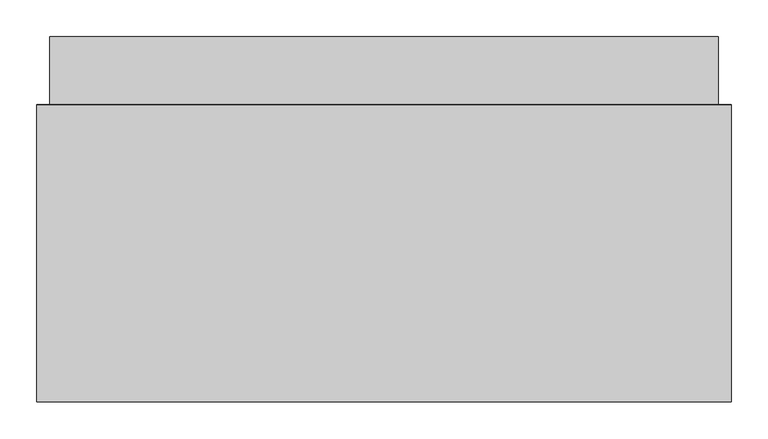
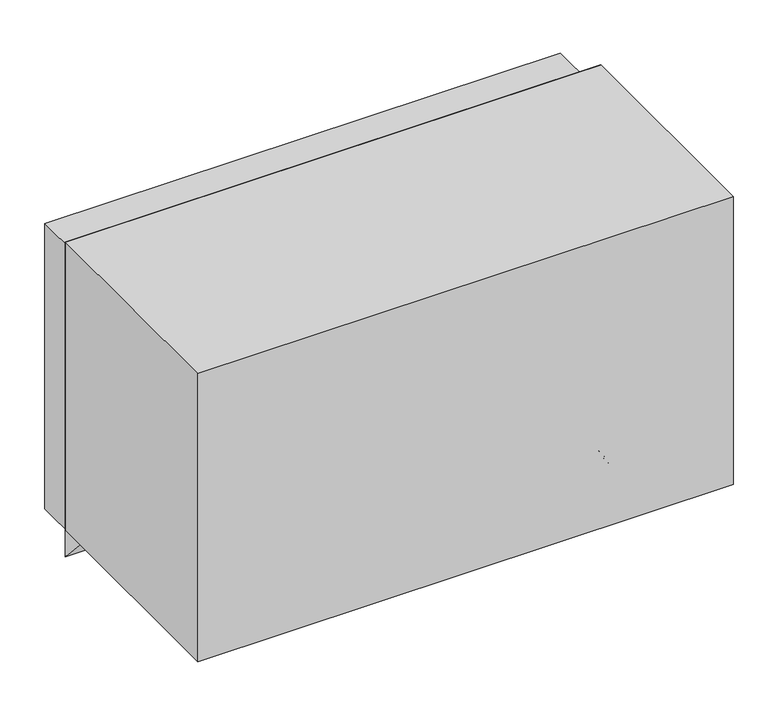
"""IFC4 building model written with IfcOpenShell, lengths in millimetres: proxy geometry, Baby Change Station_Metlam_Horizontal_Recessed : 940w x 495d x 585h (ML_8200REC)."""

from ifc_helpers import new_model, si_unit, point, frame, origin, place, context, project, spatial, polyline, circle_curve, ellipse_curve, trimmed, outline, extrude, source, transform, mapped, element, save
from ifc_brep_helpers import plane_surface, cylinder_surface, revolved_surface, advanced_brep


def specialty_equipment_21699a56(model_context):
    return source(origin(), model_context, "Body", "SolidModel", [
        advanced_brep(
        [(-389.7572247, -388.0, 800.0), (389.7572247, -388.0, 800.0), (364.666533, -388.0, 835.8332213), (362.7624956, -388.0, 836.8244004), (316.1256144, -388.0, 836.8244004), (313.801214, -388.0, 834.5), (313.801214, -388.0, 825.5), (305.1256144, -388.0, 816.8244004), (265.8909619, -388.0, 816.8244004), (258.0281984, -388.0, 821.8335332), (251.6636581, -388.0, 835.4823341), (249.5570359, -388.0, 836.8244004), (33.0, -388.0, 836.8244004), (30.6755996, -388.0, 834.5), (30.6755996, -388.0, 828.0), (24.5, -388.0, 821.8244004), (-24.5, -388.0, 821.8244004), (-30.6755996, -388.0, 828.0), (-30.6755996, -388.0, 834.5), (-33.0, -388.0, 836.8244004), (-249.5570359, -388.0, 836.8244004), (-251.6636581, -388.0, 835.4823341), (-258.0281984, -388.0, 821.8335332), (-265.8909619, -388.0, 816.8244004), (-305.1256144, -388.0, 816.8244004), (-313.801214, -388.0, 825.5), (-313.801214, -388.0, 834.5), (-316.1256144, -388.0, 836.8244004), (-362.7624956, -388.0, 836.8244004), (-364.666533, -388.0, 835.8332213), (389.7572247, -368.0, 800.0), (-389.7572247, -368.0, 800.0), (-364.666533, -368.0, 835.8332213), (-362.7624956, -368.0, 836.8244004), (-316.1256144, -368.0, 836.8244004), (-313.801214, -368.0, 834.5), (-313.801214, -368.0, 825.5), (-305.1256144, -368.0, 816.8244004), (-265.8909619, -368.0, 816.8244004), (-258.0281984, -368.0, 821.8335332), (-251.6636581, -368.0, 835.4823341), (-249.5570359, -368.0, 836.8244004), (-33.0, -368.0, 836.8244004), (-30.6755996, -368.0, 834.5), (-30.6755996, -368.0, 828.0), (-24.5, -368.0, 821.8244004), (24.5, -368.0, 821.8244004), (30.6755996, -368.0, 828.0), (30.6755996, -368.0, 834.5), (33.0, -368.0, 836.8244004), (249.5570359, -368.0, 836.8244004), (251.6636581, -368.0, 835.4823341), (258.0281984, -368.0, 821.8335332), (265.8909619, -368.0, 816.8244004), (305.1256144, -368.0, 816.8244004), (313.801214, -368.0, 825.5), (313.801214, -368.0, 834.5), (316.1256144, -368.0, 836.8244004), (362.7624956, -368.0, 836.8244004), (364.666533, -368.0, 835.8332213), (393.6339159, -384.8244004, 800.0), (393.6339159, -371.1755996, 800.0), (367.2678319, -371.1755996, 837.6546704), (367.2678319, -384.8244004, 837.6546704), (362.7624956, -371.1755996, 840.0), (362.7624956, -384.8244031, 840.0), (316.1256144, -371.1755996, 840.0), (316.1256144, -384.8244004, 840.0), (310.6256144, -371.1755996, 834.5), (310.6256144, -384.8244035, 834.5), (310.6256144, -371.1755996, 825.5), (310.6256144, -384.8244004, 825.5), (305.1256144, -371.1755996, 820.0), (305.1256144, -384.8244018, 820.0), (265.8909619, -371.1755996, 820.0), (265.8909619, -384.8244004, 820.0), (260.9062691, -371.1755996, 823.1755996), (260.9062691, -384.8244, 823.1755996), (254.5417287, -371.1755996, 836.8244004), (254.5417287, -384.8244004, 836.8244004), (249.5570359, -371.1755996, 840.0), (249.5570359, -384.8244023, 840.0), (33.0, -371.1755996, 840.0), (33.0, -384.8244004, 840.0), (27.5, -371.1755996, 834.5), (27.5, -384.8244033, 834.5), (27.5, -371.1755996, 828.0), (27.5, -384.8244004, 828.0), (24.5, -384.8244004, 825.0), (24.5, -371.1755996, 825.0), (-24.5, -371.1755996, 825.0), (-24.5, -384.8244004, 825.0), (-27.5, -384.8244004, 828.0), (-27.5, -371.1755996, 828.0), (-27.5, -371.1755996, 834.5), (-27.5, -384.8244004, 834.5), (-33.0, -371.1755996, 840.0), (-33.0, -384.8244025, 840.0), (-249.5570359, -371.1755996, 840.0), (-249.5570359, -384.8244004, 840.0), (-254.5417287, -371.1755996, 836.8244004), (-254.5417287, -384.8244031, 836.8244004), (-260.9062691, -371.1755996, 823.1755996), (-260.9062691, -384.8244004, 823.1755996), (-265.8909619, -371.1755996, 820.0), (-265.8909619, -384.8244016, 820.0), (-305.1256144, -371.1755996, 820.0), (-305.1256144, -384.8244004, 820.0), (-310.6256144, -371.1755996, 825.5), (-310.6256144, -384.8243996, 825.5), (-310.6256144, -371.1755996, 834.5), (-310.6256144, -384.8244004, 834.5), (-316.1256144, -371.1755996, 840.0), (-316.1256144, -384.8244026, 840.0), (-362.7624956, -371.1755996, 840.0), (-362.7624956, -384.8244004, 840.0), (-367.2678319, -371.1755996, 837.6546704), (-367.2678319, -384.8244032, 837.6546704), (-393.6339159, -371.1755996, 800.0), (-393.6339159, -384.8244004, 800.0)],
        [
            (0, 1),
            (1, 2),
            (2, 3, circle_curve(frame((362.7624956, -388.0, 834.5), z_axis=(0.0, -1.0, 0.0), x_axis=(0.8191520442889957, 0.0, 0.5735764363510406)), 2.3244004)),
            (3, 4),
            (4, 5, circle_curve(frame((316.1256144, -388.0, 834.5), z_axis=(0.0, -1.0, 0.0), x_axis=(0.0, 0.0, 1.0)), 2.3244004)),
            (5, 6),
            (6, 7, circle_curve(frame((305.1256144, -388.0, 825.5), z_axis=(0.0, 1.0, 0.0), x_axis=(1.0, 0.0, 0.0)), 8.6755996)),
            (7, 8),
            (8, 9, circle_curve(frame((265.8909619, -388.0, 825.5), z_axis=(0.0, 1.0, 0.0), x_axis=(0.0, 0.0, -1.0)), 8.6755996)),
            (9, 10),
            (10, 11, circle_curve(frame((249.5570359, -388.0, 834.5), z_axis=(0.0, -1.0, 0.0), x_axis=(0.9063077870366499, 0.0, 0.4226182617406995)), 2.3244004)),
            (11, 12),
            (12, 13, circle_curve(frame((33.0, -388.0, 834.5), z_axis=(0.0, -1.0, 0.0), x_axis=(0.0, 0.0, 1.0)), 2.3244004)),
            (13, 14),
            (14, 15, circle_curve(frame((24.5, -388.0, 828.0), z_axis=(0.0, 1.0, 0.0), x_axis=(1.0, 0.0, 0.0)), 6.1755996)),
            (15, 16),
            (16, 17, circle_curve(frame((-24.5, -388.0, 828.0), z_axis=(0.0, 1.0, 0.0), x_axis=(0.0, 0.0, -1.0)), 6.1755996)),
            (17, 18),
            (18, 19, circle_curve(frame((-33.0, -388.0, 834.5), z_axis=(0.0, -1.0, 0.0), x_axis=(1.0, 0.0, 0.0)), 2.3244004)),
            (19, 20),
            (20, 21, circle_curve(frame((-249.5570359, -388.0, 834.5), z_axis=(0.0, -1.0, 0.0), x_axis=(0.0, 0.0, 1.0)), 2.3244004)),
            (21, 22),
            (22, 23, circle_curve(frame((-265.8909619, -388.0, 825.5), z_axis=(0.0, 1.0, 0.0), x_axis=(0.9063077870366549, 0.0, -0.4226182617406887)), 8.6755996)),
            (23, 24),
            (24, 25, circle_curve(frame((-305.1256144, -388.0, 825.5), z_axis=(0.0, 1.0, 0.0), x_axis=(0.0, 0.0, -1.0)), 8.6755996)),
            (25, 26),
            (26, 27, circle_curve(frame((-316.1256144, -388.0, 834.5), z_axis=(0.0, -1.0, 0.0), x_axis=(1.0, 0.0, 0.0)), 2.3244004)),
            (27, 28),
            (28, 29, circle_curve(frame((-362.7624956, -388.0, 834.5), z_axis=(0.0, -1.0, 0.0), x_axis=(0.0, 0.0, 1.0)), 2.3244004)),
            (29, 0),
            (30, 31),
            (31, 32),
            (32, 33, circle_curve(frame((-362.7624956, -368.0, 834.5), z_axis=(0.0, 1.0, 0.0), x_axis=(0.0, 0.0, 1.0)), 2.3244004)),
            (33, 34),
            (34, 35, circle_curve(frame((-316.1256144, -368.0, 834.5), z_axis=(0.0, 1.0, 0.0), x_axis=(1.0, 0.0, 0.0)), 2.3244004)),
            (35, 36),
            (36, 37, circle_curve(frame((-305.1256144, -368.0, 825.5), z_axis=(0.0, -1.0, 0.0), x_axis=(0.0, 0.0, -1.0)), 8.6755996)),
            (37, 38),
            (38, 39, circle_curve(frame((-265.8909619, -368.0, 825.5), z_axis=(0.0, -1.0, 0.0), x_axis=(0.9063077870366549, 0.0, -0.4226182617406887)), 8.6755996)),
            (39, 40),
            (40, 41, circle_curve(frame((-249.5570359, -368.0, 834.5), z_axis=(0.0, 1.0, 0.0), x_axis=(0.0, 0.0, 1.0)), 2.3244004)),
            (41, 42),
            (42, 43, circle_curve(frame((-33.0, -368.0, 834.5), z_axis=(0.0, 1.0, 0.0), x_axis=(1.0, 0.0, 0.0)), 2.3244004)),
            (43, 44),
            (44, 45, circle_curve(frame((-24.5, -368.0, 828.0), z_axis=(0.0, -1.0, 0.0), x_axis=(0.0, 0.0, -1.0)), 6.1755996)),
            (45, 46),
            (46, 47, circle_curve(frame((24.5, -368.0, 828.0), z_axis=(0.0, -1.0, 0.0), x_axis=(1.0, 0.0, 0.0)), 6.1755996)),
            (47, 48),
            (48, 49, circle_curve(frame((33.0, -368.0, 834.5), z_axis=(0.0, 1.0, 0.0), x_axis=(0.0, 0.0, 1.0)), 2.3244004)),
            (49, 50),
            (50, 51, circle_curve(frame((249.5570359, -368.0, 834.5), z_axis=(0.0, 1.0, 0.0), x_axis=(0.9063077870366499, 0.0, 0.4226182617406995)), 2.3244004)),
            (51, 52),
            (52, 53, circle_curve(frame((265.8909619, -368.0, 825.5), z_axis=(0.0, -1.0, 0.0), x_axis=(0.0, 0.0, -1.0)), 8.6755996)),
            (53, 54),
            (54, 55, circle_curve(frame((305.1256144, -368.0, 825.5), z_axis=(0.0, -1.0, 0.0), x_axis=(1.0, 0.0, 0.0)), 8.6755996)),
            (55, 56),
            (56, 57, circle_curve(frame((316.1256144, -368.0, 834.5), z_axis=(0.0, 1.0, 0.0), x_axis=(0.0, 0.0, 1.0)), 2.3244004)),
            (57, 58),
            (58, 59, circle_curve(frame((362.7624956, -368.0, 834.5), z_axis=(0.0, 1.0, 0.0), x_axis=(0.8191520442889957, 0.0, 0.5735764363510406)), 2.3244004)),
            (59, 30),
            (60, 61),
            (61, 62),
            (62, 63),
            (63, 60),
            (62, 64, circle_curve(frame((362.7624956, -371.1755996, 834.5), z_axis=(0.0, -1.0, 0.0), x_axis=(1.0, 0.0, 0.0)), 5.5)),
            (64, 65),
            (65, 63, circle_curve(frame((362.7624956, -384.8244004, 834.5), z_axis=(0.0, 1.0, 0.0), x_axis=(1.0, 0.0, 0.0)), 5.5)),
            (64, 66),
            (66, 67),
            (67, 65),
            (66, 68, circle_curve(frame((316.1256144, -371.1755996, 834.5), z_axis=(0.0, -1.0, 0.0), x_axis=(1.0, 0.0, 0.0)), 5.5)),
            (68, 69),
            (69, 67, circle_curve(frame((316.1256144, -384.8244004, 834.5), z_axis=(0.0, 1.0, 0.0), x_axis=(1.0, 0.0, 0.0)), 5.5)),
            (68, 70),
            (70, 71),
            (71, 69),
            (70, 72, circle_curve(frame((305.1256144, -371.1755996, 825.5), z_axis=(0.0, 1.0, 0.0), x_axis=(1.0, 0.0, 0.0)), 5.5)),
            (72, 73),
            (73, 71, circle_curve(frame((305.1256144, -384.8244004, 825.5), z_axis=(0.0, -1.0, 0.0), x_axis=(1.0, 0.0, 0.0)), 5.5)),
            (72, 74),
            (74, 75),
            (75, 73),
            (74, 76, circle_curve(frame((265.8909619, -371.1755996, 825.5), z_axis=(0.0, 1.0, 0.0), x_axis=(1.0, 0.0, 0.0)), 5.5)),
            (76, 77),
            (77, 75, circle_curve(frame((265.8909619, -384.8244004, 825.5), z_axis=(0.0, -1.0, 0.0), x_axis=(1.0, 0.0, 0.0)), 5.5)),
            (76, 78),
            (78, 79),
            (79, 77),
            (78, 80, circle_curve(frame((249.5570359, -371.1755996, 834.5), z_axis=(0.0, -1.0, 0.0), x_axis=(1.0, 0.0, 0.0)), 5.5)),
            (80, 81),
            (81, 79, circle_curve(frame((249.5570359, -384.8244004, 834.5), z_axis=(0.0, 1.0, 0.0), x_axis=(1.0, 0.0, 0.0)), 5.5)),
            (80, 82),
            (82, 83),
            (83, 81),
            (82, 84, circle_curve(frame((33.0, -371.1755996, 834.5), z_axis=(0.0, -1.0, 0.0), x_axis=(1.0, 0.0, 0.0)), 5.5)),
            (84, 85),
            (85, 83, circle_curve(frame((33.0, -384.8244004, 834.5), z_axis=(0.0, 1.0, 0.0), x_axis=(1.0, 0.0, 0.0)), 5.5)),
            (84, 86),
            (86, 87),
            (87, 85),
            (88, 89),
            (89, 90),
            (90, 91),
            (91, 88),
            (92, 93),
            (93, 94),
            (94, 95),
            (95, 92),
            (94, 96, circle_curve(frame((-33.0, -371.1755996, 834.5), z_axis=(0.0, -1.0, 0.0), x_axis=(1.0, 0.0, 0.0)), 5.5)),
            (96, 97),
            (97, 95, circle_curve(frame((-33.0, -384.8244004, 834.5), z_axis=(0.0, 1.0, 0.0), x_axis=(1.0, 0.0, 0.0)), 5.5)),
            (96, 98),
            (98, 99),
            (99, 97),
            (98, 100, circle_curve(frame((-249.5570359, -371.1755996, 834.5), z_axis=(0.0, -1.0, 0.0), x_axis=(1.0, 0.0, 0.0)), 5.5)),
            (100, 101),
            (101, 99, circle_curve(frame((-249.5570359, -384.8244004, 834.5), z_axis=(0.0, 1.0, 0.0), x_axis=(1.0, 0.0, 0.0)), 5.5)),
            (100, 102),
            (102, 103),
            (103, 101),
            (102, 104, circle_curve(frame((-265.8909619, -371.1755996, 825.5), z_axis=(0.0, 1.0, 0.0), x_axis=(1.0, 0.0, 0.0)), 5.5)),
            (104, 105),
            (105, 103, circle_curve(frame((-265.8909619, -384.8244004, 825.5), z_axis=(0.0, -1.0, 0.0), x_axis=(1.0, 0.0, 0.0)), 5.5)),
            (104, 106),
            (106, 107),
            (107, 105),
            (106, 108, circle_curve(frame((-305.1256144, -371.1755996, 825.5), z_axis=(0.0, 1.0, 0.0), x_axis=(1.0, 0.0, 0.0)), 5.5)),
            (108, 109),
            (109, 107, circle_curve(frame((-305.1256144, -384.8244004, 825.5), z_axis=(0.0, -1.0, 0.0), x_axis=(1.0, 0.0, 0.0)), 5.5)),
            (108, 110),
            (110, 111),
            (111, 109),
            (110, 112, circle_curve(frame((-316.1256144, -371.1755996, 834.5), z_axis=(0.0, -1.0, 0.0), x_axis=(1.0, 0.0, 0.0)), 5.5)),
            (112, 113),
            (113, 111, circle_curve(frame((-316.1256144, -384.8244004, 834.5), z_axis=(0.0, 1.0, 0.0), x_axis=(1.0, 0.0, 0.0)), 5.5)),
            (112, 114),
            (114, 115),
            (115, 113),
            (114, 116, circle_curve(frame((-362.7624956, -371.1755996, 834.5), z_axis=(0.0, -1.0, 0.0), x_axis=(1.0, 0.0, 0.0)), 5.5)),
            (116, 117),
            (117, 115, circle_curve(frame((-362.7624956, -384.8244004, 834.5), z_axis=(0.0, 1.0, 0.0), x_axis=(1.0, 0.0, 0.0)), 5.5)),
            (116, 118),
            (118, 119),
            (119, 117),
            (0, 119, ellipse_curve(frame((-389.7572247, -384.8244004, 800.0), z_axis=(0.0, 0.0, -1.0), x_axis=(-1.0, 0.0, 0.0)), 3.8766912, 3.1755996)),
            (118, 31, ellipse_curve(frame((-389.7572247, -371.1755996, 800.0), z_axis=(0.0, 0.0, -1.0), x_axis=(-1.0, 0.0, 0.0)), 3.8766912, 3.1755996)),
            (30, 61, ellipse_curve(frame((389.7572247, -371.1755996, 800.0), z_axis=(0.0, 0.0, -1.0), x_axis=(-1.0, 0.0, 0.0)), 3.8766912, 3.1755996)),
            (60, 1, ellipse_curve(frame((389.7572247, -384.8244004, 800.0), z_axis=(0.0, 0.0, -1.0), x_axis=(-1.0, 0.0, 0.0)), 3.8766912, 3.1755996)),
            (88, 87, circle_curve(frame((24.5, -384.8244004, 828.0), z_axis=(0.0, -1.0, 0.0), x_axis=(1.0, 0.0, 0.0)), 3.0)),
            (86, 89, circle_curve(frame((24.5, -371.1755996, 828.0), z_axis=(0.0, 1.0, 0.0), x_axis=(1.0, 0.0, 0.0)), 3.0)),
            (92, 91, circle_curve(frame((-24.5, -384.8244004, 828.0), z_axis=(0.0, -1.0, 0.0), x_axis=(1.0, 0.0, 0.0)), 3.0)),
            (90, 93, circle_curve(frame((-24.5, -371.1755996, 828.0), z_axis=(0.0, 1.0, 0.0), x_axis=(1.0, 0.0, 0.0)), 3.0)),
            (59, 62, circle_curve(frame((364.666533, -371.1755996, 835.8332213), z_axis=(0.5735764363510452, 0.0, -0.8191520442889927), x_axis=(-0.8191520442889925, 0.0, -0.573576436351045)), 3.1755996)),
            (63, 2, circle_curve(frame((364.666533, -384.8244004, 835.8332213), z_axis=(0.5735764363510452, 0.0, -0.8191520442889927), x_axis=(-0.8191520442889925, 0.0, -0.573576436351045)), 3.1755996)),
            (58, 64, circle_curve(frame((362.7624956, -371.1755996, 836.8244004), z_axis=(1.0, 0.0, 0.0), x_axis=(0.0, 0.0, -1.0)), 3.1755996)),
            (65, 3, circle_curve(frame((362.7624956, -384.8244004, 836.8244004), z_axis=(1.0, 0.0, 0.0), x_axis=(0.0, 0.0, -1.0)), 3.1755996)),
            (57, 66, circle_curve(frame((316.1256144, -371.1755996, 836.8244004), z_axis=(1.0, 0.0, 0.0), x_axis=(0.0, 0.0, -1.0)), 3.1755996)),
            (67, 4, circle_curve(frame((316.1256144, -384.8244004, 836.8244004), z_axis=(1.0, 0.0, 0.0), x_axis=(0.0, 0.0, -1.0)), 3.1755996)),
            (56, 68, circle_curve(frame((313.801214, -371.1755996, 834.5), z_axis=(0.0, 0.0, 1.0), x_axis=(1.0, 0.0, 0.0)), 3.1755996)),
            (69, 5, circle_curve(frame((313.801214, -384.8244004, 834.5), z_axis=(0.0, 0.0, 1.0), x_axis=(1.0, 0.0, 0.0)), 3.1755996)),
            (55, 70, circle_curve(frame((313.801214, -371.1755996, 825.5), z_axis=(0.0, 0.0, 1.0), x_axis=(1.0, 0.0, 0.0)), 3.1755996)),
            (71, 6, circle_curve(frame((313.801214, -384.8244004, 825.5), z_axis=(0.0, 0.0, 1.0), x_axis=(1.0, 0.0, 0.0)), 3.1755996)),
            (54, 72, circle_curve(frame((305.1256144, -371.1755996, 816.8244004), z_axis=(1.0, 0.0, 0.0), x_axis=(0.0, 0.0, -1.0)), 3.1755996)),
            (73, 7, circle_curve(frame((305.1256144, -384.8244004, 816.8244004), z_axis=(1.0, 0.0, 0.0), x_axis=(0.0, 0.0, -1.0)), 3.1755996)),
            (53, 74, circle_curve(frame((265.8909619, -371.1755996, 816.8244004), z_axis=(1.0, 0.0, 0.0), x_axis=(0.0, 0.0, -1.0)), 3.1755996)),
            (75, 8, circle_curve(frame((265.8909619, -384.8244004, 816.8244004), z_axis=(1.0, 0.0, 0.0), x_axis=(0.0, 0.0, -1.0)), 3.1755996)),
            (52, 76, circle_curve(frame((258.0281984, -371.1755996, 821.8335332), z_axis=(0.42261826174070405, 0.0, -0.9063077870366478), x_axis=(-0.9063077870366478, 0.0, -0.42261826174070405)), 3.1755996)),
            (77, 9, circle_curve(frame((258.0281984, -384.8244004, 821.8335332), z_axis=(0.4226182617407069, 0.0, -0.9063077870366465), x_axis=(-0.9063077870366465, 0.0, -0.4226182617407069)), 3.1755996)),
            (51, 78, circle_curve(frame((251.6636581, -371.1755996, 835.4823341), z_axis=(0.4226182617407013, 0.0, -0.9063077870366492), x_axis=(-0.9063077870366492, 0.0, -0.4226182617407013)), 3.1755996)),
            (79, 10, circle_curve(frame((251.6636581, -384.8244004, 835.4823341), z_axis=(0.4226182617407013, 0.0, -0.9063077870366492), x_axis=(-0.9063077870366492, 0.0, -0.4226182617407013)), 3.1755996)),
            (50, 80, circle_curve(frame((249.5570359, -371.1755996, 836.8244004), z_axis=(1.0, 0.0, 0.0), x_axis=(0.0, 0.0, -1.0)), 3.1755996)),
            (81, 11, circle_curve(frame((249.5570359, -384.8244004, 836.8244004), z_axis=(1.0, 0.0, 0.0), x_axis=(0.0, 0.0, -1.0)), 3.1755996)),
            (49, 82, circle_curve(frame((33.0, -371.1755996, 836.8244004), z_axis=(1.0, 0.0, 0.0), x_axis=(0.0, 0.0, -1.0)), 3.1755996)),
            (83, 12, circle_curve(frame((33.0, -384.8244004, 836.8244004), z_axis=(1.0, 0.0, 0.0), x_axis=(0.0, 0.0, -1.0)), 3.1755996)),
            (48, 84, circle_curve(frame((30.6755996, -371.1755996, 834.5), z_axis=(0.0, 0.0, 1.0), x_axis=(1.0, 0.0, 0.0)), 3.1755996)),
            (85, 13, circle_curve(frame((30.6755996, -384.8244004, 834.5), z_axis=(0.0, 0.0, 1.0), x_axis=(1.0, 0.0, 0.0)), 3.1755996)),
            (47, 86, circle_curve(frame((30.6755996, -371.1755996, 828.0), z_axis=(0.0, 0.0, 1.0), x_axis=(1.0, 0.0, 0.0)), 3.1755996)),
            (87, 14, circle_curve(frame((30.6755996, -384.8244004, 828.0), z_axis=(0.0, 0.0, 1.0), x_axis=(1.0, 0.0, 0.0)), 3.1755996)),
            (45, 90, circle_curve(frame((-24.5, -371.1755996, 821.8244004), z_axis=(1.0, 0.0, 0.0), x_axis=(0.0, 0.0, -1.0)), 3.1755996)),
            (89, 46, circle_curve(frame((24.5, -371.1755996, 821.8244004), z_axis=(-1.0, 0.0, 0.0), x_axis=(0.0, 0.0, -1.0)), 3.1755996)),
            (91, 16, circle_curve(frame((-24.5, -384.8244004, 821.8244004), z_axis=(1.0, 0.0, 0.0), x_axis=(0.0, 0.0, -1.0)), 3.1755996)),
            (15, 88, circle_curve(frame((24.5, -384.8244004, 821.8244004), z_axis=(-1.0, 0.0, 0.0), x_axis=(0.0, 0.0, -1.0)), 3.1755996)),
            (43, 94, circle_curve(frame((-30.6755996, -371.1755996, 834.5), z_axis=(0.0, 0.0, -1.0), x_axis=(-1.0, 0.0, 0.0)), 3.1755996)),
            (93, 44, circle_curve(frame((-30.6755996, -371.1755996, 828.0), z_axis=(0.0, 0.0, 1.0), x_axis=(-1.0, 0.0, 0.0)), 3.1755996)),
            (95, 18, circle_curve(frame((-30.6755996, -384.8244004, 834.5), z_axis=(0.0, 0.0, -1.0), x_axis=(-1.0, 0.0, 0.0)), 3.1755996)),
            (17, 92, circle_curve(frame((-30.6755996, -384.8244004, 828.0), z_axis=(0.0, 0.0, 1.0), x_axis=(-1.0, 0.0, 0.0)), 3.1755996)),
            (42, 96, circle_curve(frame((-33.0, -371.1755996, 836.8244004), z_axis=(1.0, 0.0, 0.0), x_axis=(0.0, 0.0, -1.0)), 3.1755996)),
            (97, 19, circle_curve(frame((-33.0, -384.8244004, 836.8244004), z_axis=(1.0, 0.0, 0.0), x_axis=(0.0, 0.0, -1.0)), 3.1755996)),
            (41, 98, circle_curve(frame((-249.5570359, -371.1755996, 836.8244004), z_axis=(1.0, 0.0, 0.0), x_axis=(0.0, 0.0, -1.0)), 3.1755996)),
            (99, 20, circle_curve(frame((-249.5570359, -384.8244004, 836.8244004), z_axis=(1.0, 0.0, 0.0), x_axis=(0.0, 0.0, -1.0)), 3.1755996)),
            (40, 100, circle_curve(frame((-251.6636581, -371.1755996, 835.4823341), z_axis=(0.4226182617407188, 0.0, 0.9063077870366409), x_axis=(0.9063077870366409, 0.0, -0.4226182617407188)), 3.1755996)),
            (101, 21, circle_curve(frame((-251.6636581, -384.8244004, 835.4823341), z_axis=(0.42261826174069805, 0.0, 0.9063077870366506), x_axis=(0.9063077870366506, 0.0, -0.42261826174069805)), 3.1755996)),
            (39, 102, circle_curve(frame((-258.0281984, -371.1755996, 821.8335332), z_axis=(0.42261826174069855, 0.0, 0.9063077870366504), x_axis=(0.9063077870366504, 0.0, -0.42261826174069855)), 3.1755996)),
            (103, 22, circle_curve(frame((-258.0281984, -384.8244004, 821.8335332), z_axis=(0.42261826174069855, 0.0, 0.9063077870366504), x_axis=(0.9063077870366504, 0.0, -0.42261826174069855)), 3.1755996)),
            (38, 104, circle_curve(frame((-265.8909619, -371.1755996, 816.8244004), z_axis=(1.0, 0.0, 0.0), x_axis=(0.0, 0.0, -1.0)), 3.1755996)),
            (105, 23, circle_curve(frame((-265.8909619, -384.8244004, 816.8244004), z_axis=(1.0, 0.0, 0.0), x_axis=(0.0, 0.0, -1.0)), 3.1755996)),
            (37, 106, circle_curve(frame((-305.1256144, -371.1755996, 816.8244004), z_axis=(1.0, 0.0, 0.0), x_axis=(0.0, 0.0, -1.0)), 3.1755996)),
            (107, 24, circle_curve(frame((-305.1256144, -384.8244004, 816.8244004), z_axis=(1.0, 0.0, 0.0), x_axis=(0.0, 0.0, -1.0)), 3.1755996)),
            (36, 108, circle_curve(frame((-313.801214, -371.1755996, 825.5), z_axis=(0.0, 0.0, -1.0), x_axis=(-1.0, 0.0, 0.0)), 3.1755996)),
            (109, 25, circle_curve(frame((-313.801214, -384.8244004, 825.5), z_axis=(0.0, 0.0, -1.0), x_axis=(-1.0, 0.0, 0.0)), 3.1755996)),
            (35, 110, circle_curve(frame((-313.801214, -371.1755996, 834.5), z_axis=(0.0, 0.0, -1.0), x_axis=(-1.0, 0.0, 0.0)), 3.1755996)),
            (111, 26, circle_curve(frame((-313.801214, -384.8244004, 834.5), z_axis=(0.0, 0.0, -1.0), x_axis=(-1.0, 0.0, 0.0)), 3.1755996)),
            (34, 112, circle_curve(frame((-316.1256144, -371.1755996, 836.8244004), z_axis=(1.0, 0.0, 0.0), x_axis=(0.0, 0.0, -1.0)), 3.1755996)),
            (113, 27, circle_curve(frame((-316.1256144, -384.8244004, 836.8244004), z_axis=(1.0, 0.0, 0.0), x_axis=(0.0, 0.0, -1.0)), 3.1755996)),
            (33, 114, circle_curve(frame((-362.7624956, -371.1755996, 836.8244004), z_axis=(1.0, 0.0, 0.0), x_axis=(0.0, 0.0, -1.0)), 3.1755996)),
            (115, 28, circle_curve(frame((-362.7624956, -384.8244004, 836.8244004), z_axis=(1.0, 0.0, 0.0), x_axis=(0.0, 0.0, -1.0)), 3.1755996)),
            (32, 116, circle_curve(frame((-364.666533, -371.1755996, 835.8332213), z_axis=(0.5735764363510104, 0.0, 0.8191520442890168), x_axis=(0.8191520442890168, 0.0, -0.5735764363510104)), 3.1755996)),
            (117, 29, circle_curve(frame((-364.666533, -384.8244004, 835.8332213), z_axis=(0.573576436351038, 0.0, 0.8191520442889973), x_axis=(0.8191520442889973, 0.0, -0.573576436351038)), 3.1755996)),
        ],
        [
            plane_surface(frame((393.6339159, -388.0, 800.0), z_axis=(0.0, -1.0000000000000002, 0.0), x_axis=(-0.5735764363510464, 0.0, 0.8191520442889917))),
            plane_surface(frame((393.6339159, -368.0, 800.0), z_axis=(0.0, 1.0000000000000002, 0.0), x_axis=(0.5735764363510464, 0.0, -0.8191520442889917))),
            plane_surface(frame((393.6339159, -388.0, 800.0), z_axis=(0.8191520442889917, 0.0, 0.5735764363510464), x_axis=(0.0, 1.0, 0.0))),
            cylinder_surface(frame((362.7624956, -368.0, 834.5), z_axis=(0.0, -1.0, 0.0), x_axis=(1.0, 0.0, 0.0)), 5.5),
            plane_surface(frame((362.7624956, -388.0, 840.0), z_axis=(0.0, 0.0, 1.0), x_axis=(0.0, 1.0, 0.0))),
            cylinder_surface(frame((316.1256144, -368.0, 834.5), z_axis=(0.0, -1.0, 0.0), x_axis=(1.0, 0.0, 0.0)), 5.5),
            plane_surface(frame((310.6256144, -388.0, 834.5), z_axis=(-1.0, 0.0, 0.0), x_axis=(0.0, 1.0, 0.0))),
            revolved_surface(polyline([(310.6256144, -371.1755996, 825.5), (310.6256144, -384.8244018, 825.5)]), (305.1256144, -368.0, 825.5), (0.0, 1.0, 0.0)),
            plane_surface(frame((305.1256144, -388.0, 820.0), z_axis=(0.0, 0.0, 1.0), x_axis=(0.0, 1.0, 0.0))),
            revolved_surface(polyline([(271.3909619, -371.1755996, 825.5), (271.3909619, -384.8244004, 825.5)]), (265.8909619, -368.0, 825.5), (0.0, 1.0, 0.0)),
            plane_surface(frame((260.9062691, -388.0, 823.1755996), z_axis=(0.9063077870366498, 0.0, 0.42261826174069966), x_axis=(0.0, 1.0, 0.0))),
            cylinder_surface(frame((249.5570359, -368.0, 834.5), z_axis=(0.0, -1.0, 0.0), x_axis=(1.0, 0.0, 0.0)), 5.5),
            plane_surface(frame((249.5570359, -388.0, 840.0), z_axis=(0.0, 0.0, 1.0), x_axis=(0.0, 1.0, 0.0))),
            cylinder_surface(frame((33.0, -368.0, 834.5), z_axis=(0.0, -1.0, 0.0), x_axis=(1.0, 0.0, 0.0)), 5.5),
            plane_surface(frame((27.5, -388.0, 834.5), z_axis=(-1.0, 0.0, 0.0), x_axis=(0.0, 1.0, 0.0))),
            plane_surface(frame((24.5, -388.0, 825.0), z_axis=(0.0, 0.0, 1.0), x_axis=(0.0, 1.0, 0.0))),
            plane_surface(frame((-27.5, -388.0, 828.0), z_axis=(1.0, 0.0, 0.0), x_axis=(0.0, 1.0, 0.0))),
            cylinder_surface(frame((-33.0, -368.0, 834.5), z_axis=(0.0, -1.0, 0.0), x_axis=(1.0, 0.0, 0.0)), 5.5),
            plane_surface(frame((-33.0, -388.0, 840.0), z_axis=(0.0, 0.0, 1.0), x_axis=(0.0, 1.0, 0.0))),
            cylinder_surface(frame((-249.5570359, -368.0, 834.5), z_axis=(0.0, -1.0, 0.0), x_axis=(1.0, 0.0, 0.0)), 5.5),
            plane_surface(frame((-254.5417287, -388.0, 836.8244004), z_axis=(-0.9063077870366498, 0.0, 0.42261826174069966), x_axis=(0.0, 1.0, 0.0))),
            revolved_surface(polyline([(-260.3909619, -371.1755996, 825.5), (-260.3909619, -384.8244016, 825.5)]), (-265.8909619, -368.0, 825.5), (0.0, 1.0, 0.0)),
            plane_surface(frame((-265.8909619, -388.0, 820.0), z_axis=(0.0, 0.0, 1.0), x_axis=(0.0, 1.0, 0.0))),
            revolved_surface(polyline([(-299.6256144, -371.1755996, 825.5), (-299.6256144, -384.8244004, 825.5)]), (-305.1256144, -368.0, 825.5), (0.0, 1.0, 0.0)),
            plane_surface(frame((-310.6256144, -388.0, 825.5), z_axis=(1.0, 0.0, 0.0), x_axis=(0.0, 1.0, 0.0))),
            cylinder_surface(frame((-316.1256144, -368.0, 834.5), z_axis=(0.0, -1.0, 0.0), x_axis=(1.0, 0.0, 0.0)), 5.5),
            plane_surface(frame((-316.1256144, -388.0, 840.0), z_axis=(0.0, 0.0, 1.0), x_axis=(0.0, 1.0, 0.0))),
            cylinder_surface(frame((-362.7624956, -368.0, 834.5), z_axis=(0.0, -1.0, 0.0), x_axis=(1.0, 0.0, 0.0)), 5.5),
            plane_surface(frame((-367.2678319, -388.0, 837.6546704), z_axis=(-0.819152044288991, 0.0, 0.5735764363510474), x_axis=(0.0, 1.0, 0.0))),
            plane_surface(frame((-393.6339159, -388.0, 800.0), z_axis=(0.0, 0.0, -1.0), x_axis=(0.0, 1.0, 0.0))),
            revolved_surface(polyline([(27.5, -371.1755996, 828.0), (27.5, -384.8244004, 828.0)]), (24.5, -368.0, 828.0), (0.0, 1.0, 0.0)),
            revolved_surface(polyline([(-21.5, -371.1755996, 828.0), (-21.5, -384.8244004, 828.0)]), (-24.5, -368.0, 828.0), (0.0, 1.0, 0.0)),
            cylinder_surface(frame((391.0326171, -371.1755996, 798.1785509), z_axis=(-0.573576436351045, 0.0, 0.8191520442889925), x_axis=(-0.8191520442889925, 0.0, -0.573576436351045)), 3.1755996),
            cylinder_surface(frame((391.0326171, -384.8244004, 798.1785509), z_axis=(-0.573576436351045, 0.0, 0.8191520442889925), x_axis=(-0.8191520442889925, 0.0, -0.573576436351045)), 3.1755996),
            revolved_surface(trimmed(ellipse_curve(frame((364.666533, -371.1755996, 835.8332213), z_axis=(0.5735764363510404, 0.0, -0.8191520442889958), x_axis=(-0.8191520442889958, 0.0, -0.5735764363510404)), 3.1755996, 3.1755996), [point((364.666533, -368.0, 835.8332213))], [point((367.2678319, -371.1755996, 837.6546704))], True, "CARTESIAN"), (362.7624956, -403.0, 834.5), (0.0, -1.0, 0.0)),
            revolved_surface(trimmed(ellipse_curve(frame((364.666533, -384.8244004, 835.8332213), z_axis=(0.5735764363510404, 0.0, -0.8191520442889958), x_axis=(-0.8191520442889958, 0.0, -0.5735764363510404)), 3.1755996, 3.1755996), [point((367.2678319, -384.8244004, 837.6546704))], [point((364.666533, -388.0, 835.8332213))], True, "CARTESIAN"), (362.7624956, -403.0, 834.5), (0.0, -1.0, 0.0)),
            cylinder_surface(frame((362.7624956, -371.1755996, 836.8244004), z_axis=(-1.0, 0.0, 0.0), x_axis=(0.0, 0.0, -1.0)), 3.1755996),
            cylinder_surface(frame((362.7624956, -384.8244004, 836.8244004), z_axis=(-1.0, 0.0, 0.0), x_axis=(0.0, 0.0, -1.0)), 3.1755996),
            revolved_surface(trimmed(ellipse_curve(frame((316.1256144, -371.1755996, 836.8244004), z_axis=(1.0, 0.0, 0.0), x_axis=(0.0, 0.0, -1.0)), 3.1755996, 3.1755996), [point((316.1256144, -368.0, 836.8244004))], [point((316.1256144, -371.1755996, 840.0))], True, "CARTESIAN"), (316.1256144, -403.0, 834.5), (0.0, -1.0, 0.0)),
            revolved_surface(trimmed(ellipse_curve(frame((316.1256144, -384.8244004, 836.8244004), z_axis=(1.0, 0.0, 0.0), x_axis=(0.0, 0.0, -1.0)), 3.1755996, 3.1755996), [point((316.1256144, -384.8244004, 840.0))], [point((316.1256144, -388.0, 836.8244004))], True, "CARTESIAN"), (316.1256144, -403.0, 834.5), (0.0, -1.0, 0.0)),
            cylinder_surface(frame((313.801214, -371.1755996, 834.5), z_axis=(0.0, 0.0, -1.0), x_axis=(1.0, 0.0, 0.0)), 3.1755996),
            cylinder_surface(frame((313.801214, -384.8244004, 834.5), z_axis=(0.0, 0.0, -1.0), x_axis=(1.0, 0.0, 0.0)), 3.1755996),
            revolved_surface(trimmed(ellipse_curve(frame((313.801214, -371.1755996, 825.5), z_axis=(0.0, 0.0, 1.0), x_axis=(1.0, 0.0, 0.0)), 3.1755996, 3.1755996), [point((313.801214, -368.0, 825.5))], [point((310.6256144, -371.1755996, 825.5))], True, "CARTESIAN"), (305.1256144, -403.0, 825.5), (0.0, 1.0, 0.0)),
            revolved_surface(trimmed(ellipse_curve(frame((313.801214, -384.8244004, 825.5), z_axis=(0.0, 0.0, 1.0), x_axis=(1.0, 0.0, 0.0)), 3.1755996, 3.1755996), [point((310.6256144, -384.8244004, 825.5))], [point((313.801214, -388.0, 825.5))], True, "CARTESIAN"), (305.1256144, -403.0, 825.5), (0.0, 1.0, 0.0)),
            cylinder_surface(frame((305.1256144, -371.1755996, 816.8244004), z_axis=(-1.0, 0.0, 0.0), x_axis=(0.0, 0.0, -1.0)), 3.1755996),
            cylinder_surface(frame((305.1256144, -384.8244004, 816.8244004), z_axis=(-1.0, 0.0, 0.0), x_axis=(0.0, 0.0, -1.0)), 3.1755996),
            revolved_surface(trimmed(ellipse_curve(frame((265.8909619, -371.1755996, 816.8244004), z_axis=(1.0, 0.0, 0.0), x_axis=(0.0, 0.0, -1.0)), 3.1755996, 3.1755996), [point((265.8909619, -368.0, 816.8244004))], [point((265.8909619, -371.1755996, 820.0))], True, "CARTESIAN"), (265.8909619, -403.0, 825.5), (0.0, 1.0, 0.0)),
            revolved_surface(trimmed(ellipse_curve(frame((265.8909619, -384.8244004, 816.8244004), z_axis=(1.0, 0.0, 0.0), x_axis=(0.0, 0.0, -1.0)), 3.1755996, 3.1755996), [point((265.8909619, -384.8244004, 820.0))], [point((265.8909619, -388.0, 816.8244004))], True, "CARTESIAN"), (265.8909619, -403.0, 825.5), (0.0, 1.0, 0.0)),
            cylinder_surface(frame((258.0281984, -371.1755996, 821.8335332), z_axis=(-0.4226182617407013, 0.0, 0.9063077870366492), x_axis=(-0.9063077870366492, 0.0, -0.4226182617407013)), 3.1755996),
            cylinder_surface(frame((258.0281984, -384.8244004, 821.8335332), z_axis=(-0.4226182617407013, 0.0, 0.9063077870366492), x_axis=(-0.9063077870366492, 0.0, -0.4226182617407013)), 3.1755996),
            revolved_surface(trimmed(ellipse_curve(frame((251.6636581, -371.1755996, 835.4823341), z_axis=(0.4226182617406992, 0.0, -0.90630778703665), x_axis=(-0.90630778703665, 0.0, -0.4226182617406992)), 3.1755996, 3.1755996), [point((251.6636581, -368.0, 835.4823341))], [point((254.5417287, -371.1755996, 836.8244004))], True, "CARTESIAN"), (249.5570359, -403.0, 834.5), (0.0, -1.0, 0.0)),
            revolved_surface(trimmed(ellipse_curve(frame((251.6636581, -384.8244004, 835.4823341), z_axis=(0.4226182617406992, 0.0, -0.90630778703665), x_axis=(-0.90630778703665, 0.0, -0.4226182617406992)), 3.1755996, 3.1755996), [point((254.5417287, -384.8244004, 836.8244004))], [point((251.6636581, -388.0, 835.4823341))], True, "CARTESIAN"), (249.5570359, -403.0, 834.5), (0.0, -1.0, 0.0)),
            cylinder_surface(frame((249.5570359, -371.1755996, 836.8244004), z_axis=(-1.0, 0.0, 0.0), x_axis=(0.0, 0.0, -1.0)), 3.1755996),
            cylinder_surface(frame((249.5570359, -384.8244004, 836.8244004), z_axis=(-1.0, 0.0, 0.0), x_axis=(0.0, 0.0, -1.0)), 3.1755996),
            revolved_surface(trimmed(ellipse_curve(frame((33.0, -371.1755996, 836.8244004), z_axis=(1.0, 0.0, 0.0), x_axis=(0.0, 0.0, -1.0)), 3.1755996, 3.1755996), [point((33.0, -368.0, 836.8244004))], [point((33.0, -371.1755996, 840.0))], True, "CARTESIAN"), (33.0, -403.0, 834.5), (0.0, -1.0, 0.0)),
            revolved_surface(trimmed(ellipse_curve(frame((33.0, -384.8244004, 836.8244004), z_axis=(1.0, 0.0, 0.0), x_axis=(0.0, 0.0, -1.0)), 3.1755996, 3.1755996), [point((33.0, -384.8244004, 840.0))], [point((33.0, -388.0, 836.8244004))], True, "CARTESIAN"), (33.0, -403.0, 834.5), (0.0, -1.0, 0.0)),
            cylinder_surface(frame((30.6755996, -371.1755996, 834.5), z_axis=(0.0, 0.0, -1.0), x_axis=(1.0, 0.0, 0.0)), 3.1755996),
            cylinder_surface(frame((30.6755996, -384.8244004, 834.5), z_axis=(0.0, 0.0, -1.0), x_axis=(1.0, 0.0, 0.0)), 3.1755996),
            cylinder_surface(frame((24.5, -371.1755996, 821.8244004), z_axis=(-1.0, 0.0, 0.0), x_axis=(0.0, 0.0, -1.0)), 3.1755996),
            cylinder_surface(frame((24.5, -384.8244004, 821.8244004), z_axis=(-1.0, 0.0, 0.0), x_axis=(0.0, 0.0, -1.0)), 3.1755996),
            cylinder_surface(frame((-30.6755996, -371.1755996, 828.0), z_axis=(0.0, 0.0, 1.0), x_axis=(-1.0, 0.0, 0.0)), 3.1755996),
            cylinder_surface(frame((-30.6755996, -384.8244004, 828.0), z_axis=(0.0, 0.0, 1.0), x_axis=(-1.0, 0.0, 0.0)), 3.1755996),
            revolved_surface(trimmed(ellipse_curve(frame((-30.6755996, -371.1755996, 834.5), z_axis=(0.0, 0.0, -1.0), x_axis=(-1.0, 0.0, 0.0)), 3.1755996, 3.1755996), [point((-30.6755996, -368.0, 834.5))], [point((-27.5, -371.1755996, 834.5))], True, "CARTESIAN"), (-33.0, -403.0, 834.5), (0.0, -1.0, 0.0)),
            revolved_surface(trimmed(ellipse_curve(frame((-30.6755996, -384.8244004, 834.5), z_axis=(0.0, 0.0, -1.0), x_axis=(-1.0, 0.0, 0.0)), 3.1755996, 3.1755996), [point((-27.5, -384.8244004, 834.5))], [point((-30.6755996, -388.0, 834.5))], True, "CARTESIAN"), (-33.0, -403.0, 834.5), (0.0, -1.0, 0.0)),
            cylinder_surface(frame((-33.0, -371.1755996, 836.8244004), z_axis=(-1.0, 0.0, 0.0), x_axis=(0.0, 0.0, -1.0)), 3.1755996),
            cylinder_surface(frame((-33.0, -384.8244004, 836.8244004), z_axis=(-1.0, 0.0, 0.0), x_axis=(0.0, 0.0, -1.0)), 3.1755996),
            revolved_surface(trimmed(ellipse_curve(frame((-249.5570359, -371.1755996, 836.8244004), z_axis=(1.0, 0.0, 0.0), x_axis=(0.0, 0.0, -1.0)), 3.1755996, 3.1755996), [point((-249.5570359, -368.0, 836.8244004))], [point((-249.5570359, -371.1755996, 840.0))], True, "CARTESIAN"), (-249.5570359, -403.0, 834.5), (0.0, -1.0, 0.0)),
            revolved_surface(trimmed(ellipse_curve(frame((-249.5570359, -384.8244004, 836.8244004), z_axis=(1.0, 0.0, 0.0), x_axis=(0.0, 0.0, -1.0)), 3.1755996, 3.1755996), [point((-249.5570359, -384.8244004, 840.0))], [point((-249.5570359, -388.0, 836.8244004))], True, "CARTESIAN"), (-249.5570359, -403.0, 834.5), (0.0, -1.0, 0.0)),
            cylinder_surface(frame((-251.6636581, -371.1755996, 835.4823341), z_axis=(-0.42261826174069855, 0.0, -0.9063077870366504), x_axis=(0.9063077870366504, 0.0, -0.42261826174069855)), 3.1755996),
            cylinder_surface(frame((-251.6636581, -384.8244004, 835.4823341), z_axis=(-0.42261826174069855, 0.0, -0.9063077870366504), x_axis=(0.9063077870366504, 0.0, -0.42261826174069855)), 3.1755996),
            revolved_surface(trimmed(ellipse_curve(frame((-258.0281984, -371.1755996, 821.8335332), z_axis=(0.4226182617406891, 0.0, 0.9063077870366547), x_axis=(0.9063077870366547, 0.0, -0.4226182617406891)), 3.1755996, 3.1755996), [point((-258.0281984, -368.0, 821.8335332))], [point((-260.9062691, -371.1755996, 823.1755996))], True, "CARTESIAN"), (-265.8909619, -403.0, 825.5), (0.0, 1.0, 0.0)),
            revolved_surface(trimmed(ellipse_curve(frame((-258.0281984, -384.8244004, 821.8335332), z_axis=(0.4226182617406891, 0.0, 0.9063077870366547), x_axis=(0.9063077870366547, 0.0, -0.4226182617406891)), 3.1755996, 3.1755996), [point((-260.9062691, -384.8244004, 823.1755996))], [point((-258.0281984, -388.0, 821.8335332))], True, "CARTESIAN"), (-265.8909619, -403.0, 825.5), (0.0, 1.0, 0.0)),
            cylinder_surface(frame((-265.8909619, -371.1755996, 816.8244004), z_axis=(-1.0, 0.0, 0.0), x_axis=(0.0, 0.0, -1.0)), 3.1755996),
            cylinder_surface(frame((-265.8909619, -384.8244004, 816.8244004), z_axis=(-1.0, 0.0, 0.0), x_axis=(0.0, 0.0, -1.0)), 3.1755996),
            revolved_surface(trimmed(ellipse_curve(frame((-305.1256144, -371.1755996, 816.8244004), z_axis=(1.0, 0.0, 0.0), x_axis=(0.0, 0.0, -1.0)), 3.1755996, 3.1755996), [point((-305.1256144, -368.0, 816.8244004))], [point((-305.1256144, -371.1755996, 820.0))], True, "CARTESIAN"), (-305.1256144, -403.0, 825.5), (0.0, 1.0, 0.0)),
            revolved_surface(trimmed(ellipse_curve(frame((-305.1256144, -384.8244004, 816.8244004), z_axis=(1.0, 0.0, 0.0), x_axis=(0.0, 0.0, -1.0)), 3.1755996, 3.1755996), [point((-305.1256144, -384.8244004, 820.0))], [point((-305.1256144, -388.0, 816.8244004))], True, "CARTESIAN"), (-305.1256144, -403.0, 825.5), (0.0, 1.0, 0.0)),
            cylinder_surface(frame((-313.801214, -371.1755996, 825.5), z_axis=(0.0, 0.0, 1.0), x_axis=(-1.0, 0.0, 0.0)), 3.1755996),
            cylinder_surface(frame((-313.801214, -384.8244004, 825.5), z_axis=(0.0, 0.0, 1.0), x_axis=(-1.0, 0.0, 0.0)), 3.1755996),
            revolved_surface(trimmed(ellipse_curve(frame((-313.801214, -371.1755996, 834.5), z_axis=(0.0, 0.0, -1.0), x_axis=(-1.0, 0.0, 0.0)), 3.1755996, 3.1755996), [point((-313.801214, -368.0, 834.5))], [point((-310.6256144, -371.1755996, 834.5))], True, "CARTESIAN"), (-316.1256144, -403.0, 834.5), (0.0, -1.0, 0.0)),
            revolved_surface(trimmed(ellipse_curve(frame((-313.801214, -384.8244004, 834.5), z_axis=(0.0, 0.0, -1.0), x_axis=(-1.0, 0.0, 0.0)), 3.1755996, 3.1755996), [point((-310.6256144, -384.8244004, 834.5))], [point((-313.801214, -388.0, 834.5))], True, "CARTESIAN"), (-316.1256144, -403.0, 834.5), (0.0, -1.0, 0.0)),
            cylinder_surface(frame((-316.1256144, -371.1755996, 836.8244004), z_axis=(-1.0, 0.0, 0.0), x_axis=(0.0, 0.0, -1.0)), 3.1755996),
            cylinder_surface(frame((-316.1256144, -384.8244004, 836.8244004), z_axis=(-1.0, 0.0, 0.0), x_axis=(0.0, 0.0, -1.0)), 3.1755996),
            revolved_surface(trimmed(ellipse_curve(frame((-362.7624956, -371.1755996, 836.8244004), z_axis=(1.0, 0.0, 0.0), x_axis=(0.0, 0.0, -1.0)), 3.1755996, 3.1755996), [point((-362.7624956, -368.0, 836.8244004))], [point((-362.7624956, -371.1755996, 840.0))], True, "CARTESIAN"), (-362.7624956, -403.0, 834.5), (0.0, -1.0, 0.0)),
            revolved_surface(trimmed(ellipse_curve(frame((-362.7624956, -384.8244004, 836.8244004), z_axis=(1.0, 0.0, 0.0), x_axis=(0.0, 0.0, -1.0)), 3.1755996, 3.1755996), [point((-362.7624956, -384.8244004, 840.0))], [point((-362.7624956, -388.0, 836.8244004))], True, "CARTESIAN"), (-362.7624956, -403.0, 834.5), (0.0, -1.0, 0.0)),
            cylinder_surface(frame((-364.666533, -371.1755996, 835.8332213), z_axis=(-0.5735764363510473, 0.0, -0.819152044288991), x_axis=(0.819152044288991, 0.0, -0.5735764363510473)), 3.1755996),
            cylinder_surface(frame((-364.666533, -384.8244004, 835.8332213), z_axis=(-0.5735764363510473, 0.0, -0.819152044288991), x_axis=(0.819152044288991, 0.0, -0.5735764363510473)), 3.1755996),
            revolved_surface(trimmed(ellipse_curve(frame((30.6755996, -371.1755996, 828.0), z_axis=(0.0, 0.0, 1.0), x_axis=(1.0, 0.0, 0.0)), 3.1755996, 3.1755996), [point((30.6755996, -368.0, 828.0))], [point((27.5, -371.1755996, 828.0))], True, "CARTESIAN"), (24.5, -403.0, 828.0), (0.0, 1.0, 0.0)),
            revolved_surface(trimmed(ellipse_curve(frame((30.6755996, -384.8244004, 828.0), z_axis=(0.0, 0.0, 1.0), x_axis=(1.0, 0.0, 0.0)), 3.1755996, 3.1755996), [point((27.5, -384.8244004, 828.0))], [point((30.6755996, -388.0, 828.0))], True, "CARTESIAN"), (24.5, -403.0, 828.0), (0.0, 1.0, 0.0)),
            revolved_surface(trimmed(ellipse_curve(frame((-24.5, -371.1755996, 821.8244004), z_axis=(1.0, 0.0, 0.0), x_axis=(0.0, 0.0, -1.0)), 3.1755996, 3.1755996), [point((-24.5, -368.0, 821.8244004))], [point((-24.5, -371.1755996, 825.0))], True, "CARTESIAN"), (-24.5, -403.0, 828.0), (0.0, 1.0, 0.0)),
            revolved_surface(trimmed(ellipse_curve(frame((-24.5, -384.8244004, 821.8244004), z_axis=(1.0, 0.0, 0.0), x_axis=(0.0, 0.0, -1.0)), 3.1755996, 3.1755996), [point((-24.5, -384.8244004, 825.0))], [point((-24.5, -388.0, 821.8244004))], True, "CARTESIAN"), (-24.5, -403.0, 828.0), (0.0, 1.0, 0.0)),
        ],
        [
            (0, [[1, 2, 3, 4, 5, 6, 7, 8, 9, 10, 11, 12, 13, 14, 15, 16, 17, 18, 19, 20, 21, 22, 23, 24, 25, 26, 27, 28, 29, 30]]),
            (1, [[31, 32, 33, 34, 35, 36, 37, 38, 39, 40, 41, 42, 43, 44, 45, 46, 47, 48, 49, 50, 51, 52, 53, 54, 55, 56, 57, 58, 59, 60]]),
            (2, [[61, 62, 63, 64]]),
            (3, [[-63, 65, 66, 67]]),
            (4, [[-66, 68, 69, 70]]),
            (5, [[-69, 71, 72, 73]]),
            (6, [[-72, 74, 75, 76]]),
            (7, [[-75, 77, 78, 79]]),
            (8, [[-78, 80, 81, 82]]),
            (9, [[-81, 83, 84, 85]]),
            (10, [[-84, 86, 87, 88]]),
            (11, [[-87, 89, 90, 91]]),
            (12, [[-90, 92, 93, 94]]),
            (13, [[-93, 95, 96, 97]]),
            (14, [[-96, 98, 99, 100]]),
            (15, [[101, 102, 103, 104]]),
            (16, [[105, 106, 107, 108]]),
            (17, [[-107, 109, 110, 111]]),
            (18, [[-110, 112, 113, 114]]),
            (19, [[-113, 115, 116, 117]]),
            (20, [[-116, 118, 119, 120]]),
            (21, [[-119, 121, 122, 123]]),
            (22, [[-122, 124, 125, 126]]),
            (23, [[-125, 127, 128, 129]]),
            (24, [[-128, 130, 131, 132]]),
            (25, [[-131, 133, 134, 135]]),
            (26, [[-134, 136, 137, 138]]),
            (27, [[-137, 139, 140, 141]]),
            (28, [[-140, 142, 143, 144]]),
            (29, [[-1, 145, -143, 146, -31, 147, -61, 148]]),
            (30, [[-101, 149, -99, 150]]),
            (31, [[-105, 151, -103, 152]]),
            (32, [[153, -62, -147, -60]]),
            (33, [[154, -2, -148, -64]]),
            (34, [[-153, -59, 155, -65]]),
            (35, [[-154, -67, 156, -3]]),
            (36, [[-155, -58, 157, -68]]),
            (37, [[-156, -70, 158, -4]]),
            (38, [[-157, -57, 159, -71]]),
            (39, [[-158, -73, 160, -5]]),
            (40, [[-159, -56, 161, -74]]),
            (41, [[-160, -76, 162, -6]]),
            (42, [[-161, -55, 163, -77]]),
            (43, [[-162, -79, 164, -7]]),
            (44, [[-163, -54, 165, -80]]),
            (45, [[-164, -82, 166, -8]]),
            (46, [[-165, -53, 167, -83]]),
            (47, [[-166, -85, 168, -9]]),
            (48, [[-167, -52, 169, -86]]),
            (49, [[-168, -88, 170, -10]]),
            (50, [[-169, -51, 171, -89]]),
            (51, [[-170, -91, 172, -11]]),
            (52, [[-171, -50, 173, -92]]),
            (53, [[-172, -94, 174, -12]]),
            (54, [[-173, -49, 175, -95]]),
            (55, [[-174, -97, 176, -13]]),
            (56, [[-175, -48, 177, -98]]),
            (57, [[-176, -100, 178, -14]]),
            (58, [[179, -102, 180, -46]]),
            (59, [[181, -16, 182, -104]]),
            (60, [[183, -106, 184, -44]]),
            (61, [[185, -18, 186, -108]]),
            (62, [[-183, -43, 187, -109]]),
            (63, [[-185, -111, 188, -19]]),
            (64, [[-187, -42, 189, -112]]),
            (65, [[-188, -114, 190, -20]]),
            (66, [[-189, -41, 191, -115]]),
            (67, [[-190, -117, 192, -21]]),
            (68, [[-191, -40, 193, -118]]),
            (69, [[-192, -120, 194, -22]]),
            (70, [[-193, -39, 195, -121]]),
            (71, [[-194, -123, 196, -23]]),
            (72, [[-195, -38, 197, -124]]),
            (73, [[-196, -126, 198, -24]]),
            (74, [[-197, -37, 199, -127]]),
            (75, [[-198, -129, 200, -25]]),
            (76, [[-199, -36, 201, -130]]),
            (77, [[-200, -132, 202, -26]]),
            (78, [[-201, -35, 203, -133]]),
            (79, [[-202, -135, 204, -27]]),
            (80, [[-203, -34, 205, -136]]),
            (81, [[-204, -138, 206, -28]]),
            (82, [[-205, -33, 207, -139]]),
            (83, [[-206, -141, 208, -29]]),
            (84, [[-207, -32, -146, -142]]),
            (85, [[-208, -144, -145, -30]]),
            (86, [[-177, -47, -180, -150]]),
            (87, [[-178, -149, -182, -15]]),
            (88, [[-179, -45, -184, -152]]),
            (89, [[-181, -151, -186, -17]]),
        ],
    ),
        advanced_brep(
        [(452.5, 92.0, 1227.5), (452.5, 92.0, 697.5), (-452.5, 92.0, 697.5), (-452.5, 92.0, 1227.5), (-452.5, 0.0, 1227.5), (452.5, 0.0, 1227.5), (-452.5, 0.0, 697.5), (452.5, 0.0, 697.5), (390.0, 72.0, 1205.0), (-390.0, 72.0, 1205.0), (-420.0, 72.0, 1175.0), (-420.0, 72.0, 720.0), (420.0, 72.0, 720.0), (420.0, 72.0, 1175.0), (390.0, -12.0, 1205.0), (-390.0, -12.0, 1205.0), (-420.0, -12.0, 1175.0), (-420.0, -12.0, 800.0), (-420.0, -12.0, 790.0), (-420.0, -12.0, 720.0), (420.0, -12.0, 720.0), (420.0, -12.0, 790.0), (420.0, -12.0, 800.0), (420.0, -12.0, 1175.0), (442.5, -12.0, 1227.5), (-442.5, -12.0, 1227.5), (-442.5, -12.0, 697.5), (442.5, -12.0, 697.5), (470.0, 0.0, 1255.0), (470.0, 0.0, 670.0), (-470.0, 0.0, 670.0), (-470.0, 0.0, 1255.0)],
        [
            (0, 1),
            (1, 2),
            (2, 3),
            (3, 0),
            (3, 4),
            (4, 5),
            (5, 0),
            (2, 6),
            (6, 4),
            (1, 7),
            (7, 6),
            (5, 7),
            (8, 9),
            (9, 10, circle_curve(frame((-390.0, 72.0, 1175.0), z_axis=(0.0, -1.0, 0.0), x_axis=(1.0, 0.0, 0.0)), 30.0)),
            (10, 11),
            (11, 12),
            (12, 13),
            (13, 8, circle_curve(frame((390.0, 72.0, 1175.0), z_axis=(0.0, -1.0, 0.0), x_axis=(1.0, 0.0, 0.0)), 30.0)),
            (8, 14),
            (14, 15),
            (15, 9),
            (15, 16, circle_curve(frame((-390.0, -12.0, 1175.0), z_axis=(0.0, -1.0, 0.0), x_axis=(1.0, 0.0, 0.0)), 30.0)),
            (16, 10),
            (16, 17),
            (17, 18),
            (18, 19),
            (19, 11),
            (19, 20),
            (20, 12),
            (20, 21),
            (21, 22),
            (22, 23),
            (23, 13),
            (23, 14, circle_curve(frame((390.0, -12.0, 1175.0), z_axis=(0.0, -1.0, 0.0), x_axis=(1.0, 0.0, 0.0)), 30.0)),
            (24, 25),
            (25, 26),
            (26, 27),
            (27, 24),
            (28, 29),
            (29, 30),
            (30, 31),
            (31, 28),
            (24, 28),
            (31, 25),
            (30, 26),
            (29, 27),
        ],
        [
            plane_surface(frame((-452.5, 92.0, 1227.5), z_axis=(0.0, 1.0, 0.0), x_axis=(1.0, 0.0, 0.0))),
            plane_surface(frame((452.5, 0.0, 1227.5), z_axis=(0.0, 0.0, 1.0), x_axis=(0.0, 1.0, 0.0))),
            plane_surface(frame((-452.5, 0.0, 1227.5), z_axis=(-1.0, 0.0, 0.0), x_axis=(0.0, 1.0, 0.0))),
            plane_surface(frame((-452.5, 0.0, 697.5), z_axis=(0.0, 0.0, -1.0), x_axis=(0.0, 1.0, 0.0))),
            plane_surface(frame((452.5, 0.0, 697.5), z_axis=(1.0, 0.0, 0.0), x_axis=(0.0, 1.0, 0.0))),
            plane_surface(frame((-390.0, 72.0, 1205.0), z_axis=(0.0, -1.0, 0.0), x_axis=(1.0, 0.0, 0.0))),
            plane_surface(frame((390.0, -12.0, 1205.0), z_axis=(0.0, 0.0, -1.0), x_axis=(0.0, 1.0, 0.0))),
            revolved_surface(polyline([(-360.0, -12.0, 1175.0), (-360.0, 72.0, 1175.0)]), (-390.0, 72.0, 1175.0), (0.0, -1.0, 0.0)),
            plane_surface(frame((-420.0, -12.0, 1175.0), z_axis=(1.0, 0.0, 0.0), x_axis=(0.0, 1.0, 0.0))),
            plane_surface(frame((-420.0, -12.0, 720.0), z_axis=(0.0, 0.0, 1.0), x_axis=(0.0, 1.0, 0.0))),
            plane_surface(frame((420.0, -12.0, 720.0), z_axis=(-1.0, 0.0, 0.0), x_axis=(0.0, 1.0, 0.0))),
            revolved_surface(polyline([(420.0, -12.0, 1175.0), (420.0, 72.0, 1175.0)]), (390.0, 72.0, 1175.0), (0.0, -1.0, 0.0)),
            plane_surface(frame((0.0, -12.0, 962.5), z_axis=(0.0, -1.0, 0.0), x_axis=(-1.0, 0.0, 0.0))),
            plane_surface(frame((0.0, 0.0, 962.5), z_axis=(0.0, 1.0, 0.0), x_axis=(-1.0, 0.0, 0.0))),
            plane_surface(frame((0.0, 0.0, 1255.0), z_axis=(0.0, -0.9165393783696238, 0.3999444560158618), x_axis=(-1.0, 0.0, 0.0))),
            plane_surface(frame((-470.0, 0.0, 962.5), z_axis=(-0.39994445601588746, -0.9165393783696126, 0.0), x_axis=(0.0, 0.0, -1.0))),
            plane_surface(frame((0.0, 0.0, 670.0), z_axis=(0.0, -0.9165393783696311, -0.39994445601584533), x_axis=(1.0, 0.0, 0.0))),
            plane_surface(frame((470.0, 0.0, 962.5), z_axis=(0.39994445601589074, -0.9165393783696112, 0.0), x_axis=(0.0, 0.0, 1.0))),
        ],
        [
            (0, [[1, 2, 3, 4]]),
            (1, [[-4, 5, 6, 7]]),
            (2, [[-3, 8, 9, -5]]),
            (3, [[-2, 10, 11, -8]]),
            (4, [[-1, -7, 12, -10]]),
            (5, [[13, 14, 15, 16, 17, 18]]),
            (6, [[-13, 19, 20, 21]]),
            (7, [[-14, -21, 22, 23]]),
            (8, [[-15, -23, 24, 25, 26, 27]]),
            (9, [[-16, -27, 28, 29]]),
            (10, [[-17, -29, 30, 31, 32, 33]]),
            (11, [[-18, -33, 34, -19]]),
            (12, [[35, 36, 37, 38], [-20, -34, -32, -31, -30, -28, -26, -25, -24, -22]]),
            (13, [[39, 40, 41, 42], [-6, -9, -11, -12]]),
            (14, [[-35, 43, -42, 44]]),
            (15, [[-36, -44, -41, 45]]),
            (16, [[-37, -45, -40, 46]]),
            (17, [[-38, -46, -39, -43]]),
        ],
    ),
        extrude(outline(polyline([(470.0, -403.0), (-470.0, -403.0), (-470.0, 0.0), (470.0, 0.0), (470.0, -403.0)])), frame((0.0, 0.0, 720.0), z_axis=(0.0, 0.0, 1.0), x_axis=(1.0, 0.0, 0.0)), (0.0, 0.0, 1.0), 535.0),
    ])


if __name__ == "__main__":
    model = new_model("IFC4")
    model_context = context("Model", 3, world=origin())
    ifc_project = project(units=[si_unit("LENGTHUNIT", "METRE", prefix="MILLI")], contexts=[model_context])
    site = spatial("IfcSite", under=ifc_project)
    building = spatial("IfcBuilding", under=site)
    placement = place(None, origin())
    specialty_equipment_shape = specialty_equipment_21699a56(model_context)
    element("IfcBuildingElementProxy", 1, Name="Baby Change Station_Metlam_Horizontal_Recessed : 940w x 495d x 585h (ML_8200REC)", ObjectType="Baby Change Station_Metlam_Horizontal_Recessed : 940w x 495d x 585h (ML_8200REC)", at=placement, inside=building, context=model_context, shape_type="MappedRepresentation", body=[
        mapped(specialty_equipment_shape, transform((0.0, 0.0, 0.0), x_axis=(1.0, 0.0, 0.0), y_axis=(0.0, 1.0, 0.0), z_axis=(0.0, 0.0, 1.0))),
    ])
    save(model, "model.ifc")
